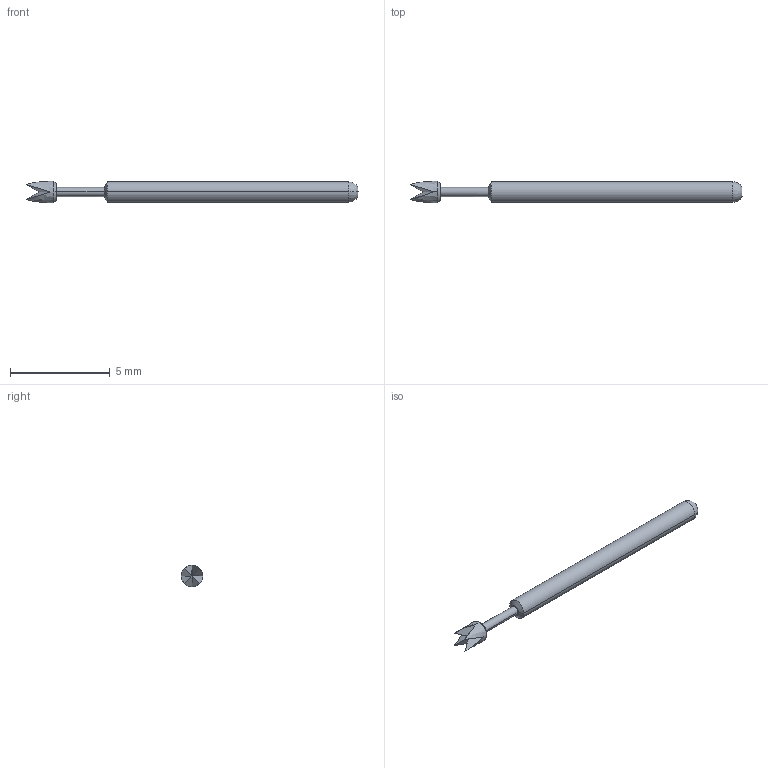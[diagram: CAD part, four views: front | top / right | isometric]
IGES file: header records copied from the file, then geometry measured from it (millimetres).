
Start section: SolidWorks IGES file using analytic representation for surfaces
Global section: file name: \\CODA-VM-SBS\RedirectedFolders\georged\My Documents\CODA CAD FILES\GENERAL PURPOSE TEST PROBES\SHORT REACH TEST PROBES\PA2\PA2Q.IGS; native system: SolidWorks 2024; preprocessor: SolidWorks 2024; author: GeorgeD; date: 240529.114014; units: millimetre
Bounding box: 16.64 x 1.07 x 1.07 mm (x, y, z)
Surface area: 50.9 mm2 (no closed solid volume)
Topology: 0 solids, 0 shells, 23 faces, 202 edges, 202 vertices
Faces by surface type: bspline 17, revolution 6
